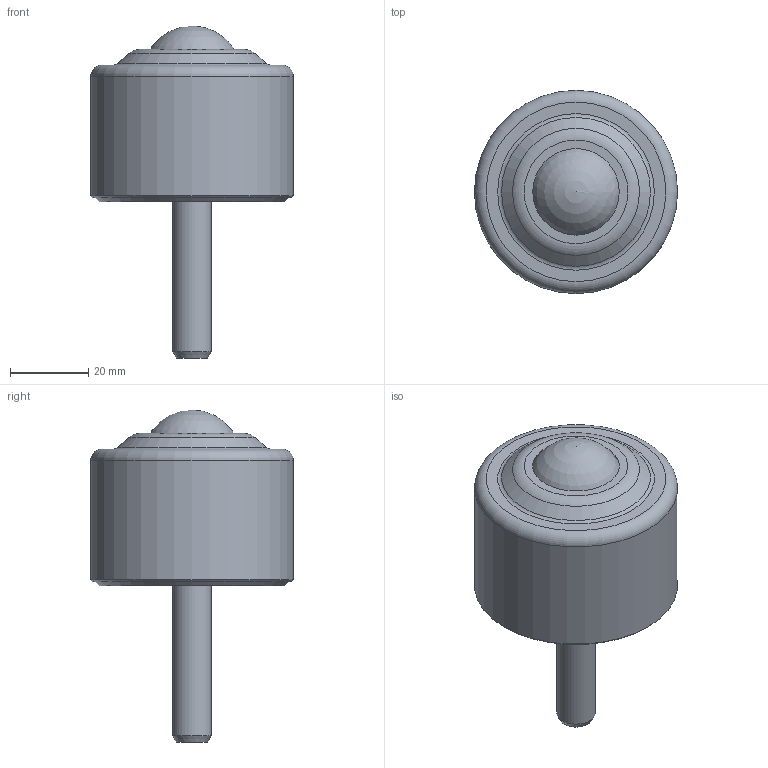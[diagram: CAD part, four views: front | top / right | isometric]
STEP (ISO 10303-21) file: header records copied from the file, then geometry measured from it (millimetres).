
FILE_DESCRIPTION(/* description */ (''),/* implementation_level */ '2;1');
FILE_NAME(/* name */ 'Z:\80-CAD共有ファイル\製品3D\X2\30C730FC30BF\X0\\04-IS-SN\IS-25SN.stp',/* time_stamp */ '2015-01-06T15:47:17+09:00',/* author */ ('yamaki'),/* organization */ (''),/* preprocessor_version */ 'ST-DEVELOPER v15.6',/* originating_system */ 'Autodesk Inventor 2015',/* authorisation */ '');
FILE_SCHEMA (('AUTOMOTIVE_DESIGN { 1 0 10303 214 3 1 1 }'));
Length unit declared in the file: millimetre
Products named in the file (3): 0425AT-01; 1050; 0425AA
Bounding box: 52 x 52 x 85 mm (x, y, z)
Volume: 81402.8 mm3; surface area: 15319.8 mm2
Topology: 2 solids, 2 shells, 30 faces, 58 edges, 36 vertices
Faces by surface type: plane 14, cone 8, cylinder 4, torus 3, sphere 1
Full cylindrical faces by diameter (mm): 8.376 x1, 10 x1, 49.3 x1, 52 x1
Entity records: 747 total; most frequent: DIRECTION 124, CARTESIAN_POINT 119, ORIENTED_EDGE 78, AXIS2_PLACEMENT_3D 56, EDGE_LOOP 50, EDGE_CURVE 39, VERTEX_POINT 33, STYLED_ITEM 31
